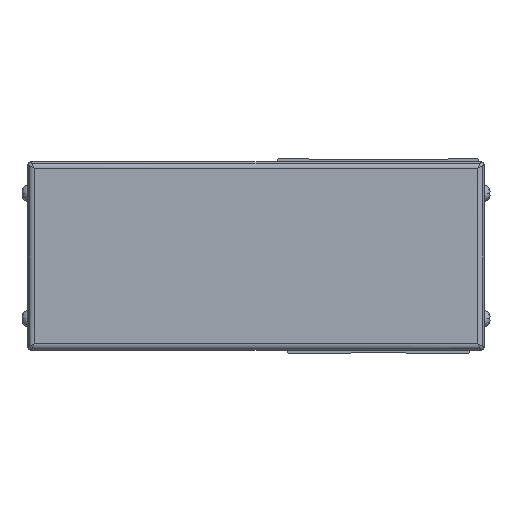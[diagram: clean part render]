
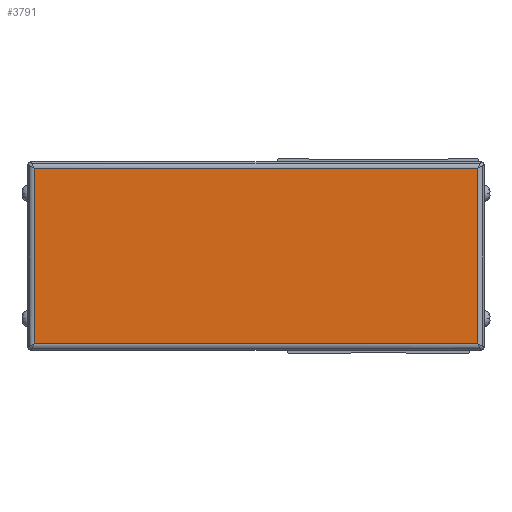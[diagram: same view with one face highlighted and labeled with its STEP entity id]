
A CAD part, front view. The second image highlights one B-rep face of the part: STEP entity #3791.
In plain terms, the highlighted planar face has unit normal (0, -1, 0).
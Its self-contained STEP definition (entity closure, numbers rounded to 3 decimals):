
#3791=ADVANCED_FACE('',(#8224),#8225,.F.);
#8224=FACE_OUTER_BOUND('',#13955,.T.);
#8225=PLANE('',#13956);
#13955=EDGE_LOOP('',(#24630,#24631,#24632,#24633));
#13956=AXIS2_PLACEMENT_3D('',#24634,#24635,#24636);
#24630=ORIENTED_EDGE('',*,*,#36190,.T.);
#24631=ORIENTED_EDGE('',*,*,#32812,.T.);
#24632=ORIENTED_EDGE('',*,*,#36286,.T.);
#24633=ORIENTED_EDGE('',*,*,#36287,.T.);
#24634=CARTESIAN_POINT('',(261.,181.,-4.));
#24635=DIRECTION('',(0.,1.0,0.));
#24636=DIRECTION('',(0.,0.,1.0));
#32812=EDGE_CURVE('',#39189,#39187,#39190,.T.);
#36190=EDGE_CURVE('',#44546,#39189,#44547,.T.);
#36286=EDGE_CURVE('',#39187,#44679,#44680,.T.);
#36287=EDGE_CURVE('',#44679,#44546,#44681,.T.);
#39187=VERTEX_POINT('',#48311);
#39189=VERTEX_POINT('',#48313);
#39190=LINE('',#48314,#48315);
#44546=VERTEX_POINT('',#56177);
#44547=LINE('',#56178,#56179);
#44679=VERTEX_POINT('',#56370);
#44680=LINE('',#56371,#56372);
#44681=LINE('',#56373,#56374);
#48311=CARTESIAN_POINT('',(190.3,181.,-32.));
#48313=CARTESIAN_POINT('',(190.3,181.,24.));
#48314=CARTESIAN_POINT('',(190.3,181.,-4.));
#48315=VECTOR('',#60264,10.0);
#56177=CARTESIAN_POINT('',(331.7,181.,24.));
#56178=CARTESIAN_POINT('',(261.,181.,24.));
#56179=VECTOR('',#64316,10.0);
#56370=CARTESIAN_POINT('',(331.7,181.,-32.));
#56371=CARTESIAN_POINT('',(261.,181.,-32.));
#56372=VECTOR('',#64397,10.0);
#56373=CARTESIAN_POINT('',(331.7,181.,-4.));
#56374=VECTOR('',#64398,10.0);
#60264=DIRECTION('',(0.,0.,-1.0));
#64316=DIRECTION('',(-1.0,0.,0.));
#64397=DIRECTION('',(1.0,0.,0.));
#64398=DIRECTION('',(0.,0.,1.0));
